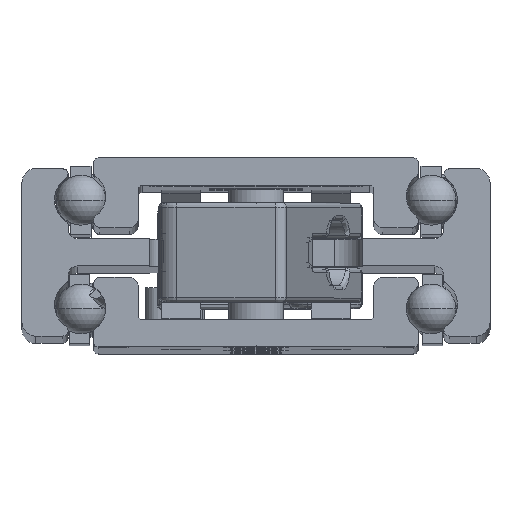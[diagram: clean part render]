
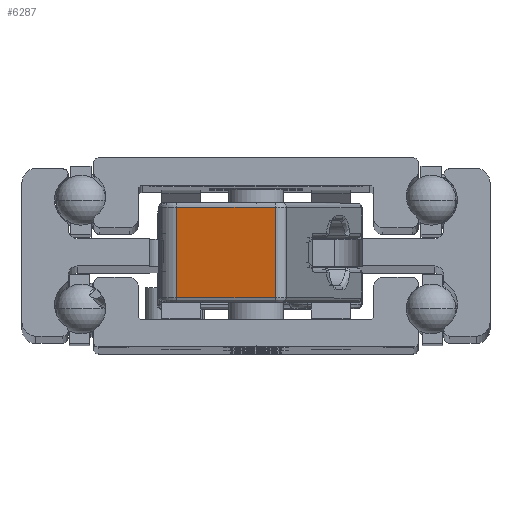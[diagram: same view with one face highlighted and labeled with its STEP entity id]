
A CAD part, top view. The second image highlights one B-rep face of the part: STEP entity #6287.
In plain terms, the highlighted planar face has unit normal (-0.225, 0, 0.974) as drawn and (-1, 0, 0) by its records, which use the part's own axes.
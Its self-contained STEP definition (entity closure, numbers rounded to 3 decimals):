
#951 = VERTEX_POINT ( 'NONE', #5704 ) ;
#2349 = CARTESIAN_POINT ( 'NONE',  ( -37., -3., -4.9 ) ) ;
#2522 = ORIENTED_EDGE ( 'NONE', *, *, #14774, .T. ) ;
#2776 = CARTESIAN_POINT ( 'NONE',  ( -37., 8., -4.9 ) ) ;
#3448 = VECTOR ( 'NONE', #8824, 1000. ) ;
#4529 = CARTESIAN_POINT ( 'NONE',  ( -37., 8., 4.9 ) ) ;
#5318 = EDGE_CURVE ( 'NONE', #15988, #26323, #23626, .T. ) ;
#5704 = CARTESIAN_POINT ( 'NONE',  ( -37., 8., 4.9 ) ) ;
#6244 = CARTESIAN_POINT ( 'NONE',  ( -37., 8., 5.4 ) ) ;
#6287 = ADVANCED_FACE ( 'NONE', ( #20005 ), #10847, .F. ) ;
#6408 = LINE ( 'NONE', #6244, #7447 ) ;
#6907 = VECTOR ( 'NONE', #25852, 1000. ) ;
#7447 = VECTOR ( 'NONE', #12907, 1000. ) ;
#8824 = DIRECTION ( 'NONE',  ( 0., 1., 0. ) ) ;
#10847 = PLANE ( 'NONE',  #19148 ) ;
#12544 = CARTESIAN_POINT ( 'NONE',  ( -37., -4., -4.9 ) ) ;
#12645 = ORIENTED_EDGE ( 'NONE', *, *, #5318, .T. ) ;
#12907 = DIRECTION ( 'NONE',  ( 0., 0., -1. ) ) ;
#13213 = DIRECTION ( 'NONE',  ( 0., 1., 0. ) ) ;
#13539 = LINE ( 'NONE', #17660, #19969 ) ;
#14774 = EDGE_CURVE ( 'NONE', #26323, #19935, #13539, .T. ) ;
#15168 = ORIENTED_EDGE ( 'NONE', *, *, #19734, .T. ) ;
#15988 = VERTEX_POINT ( 'NONE', #2776 ) ;
#17660 = CARTESIAN_POINT ( 'NONE',  ( -37., -3., 5.4 ) ) ;
#19148 = AXIS2_PLACEMENT_3D ( 'NONE', #19858, #28732, #13213 ) ;
#19734 = EDGE_CURVE ( 'NONE', #951, #15988, #6408, .T. ) ;
#19858 = CARTESIAN_POINT ( 'NONE',  ( -37., -4., 5.4 ) ) ;
#19935 = VERTEX_POINT ( 'NONE', #24061 ) ;
#19969 = VECTOR ( 'NONE', #20188, 1000. ) ;
#20005 = FACE_OUTER_BOUND ( 'NONE', #23127, .T. ) ;
#20188 = DIRECTION ( 'NONE',  ( 0., 0., 1. ) ) ;
#22113 = LINE ( 'NONE', #4529, #3448 ) ;
#23127 = EDGE_LOOP ( 'NONE', ( #15168, #12645, #2522, #27636 ) ) ;
#23626 = LINE ( 'NONE', #12544, #6907 ) ;
#24061 = CARTESIAN_POINT ( 'NONE',  ( -37., -3., 4.9 ) ) ;
#25852 = DIRECTION ( 'NONE',  ( 0., -1., 0. ) ) ;
#26323 = VERTEX_POINT ( 'NONE', #2349 ) ;
#26657 = EDGE_CURVE ( 'NONE', #19935, #951, #22113, .T. ) ;
#27636 = ORIENTED_EDGE ( 'NONE', *, *, #26657, .T. ) ;
#28732 = DIRECTION ( 'NONE',  ( 1., 0., 0. ) ) ;
